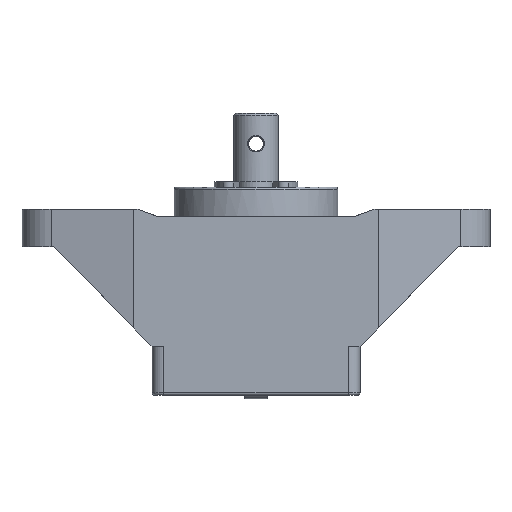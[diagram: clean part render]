
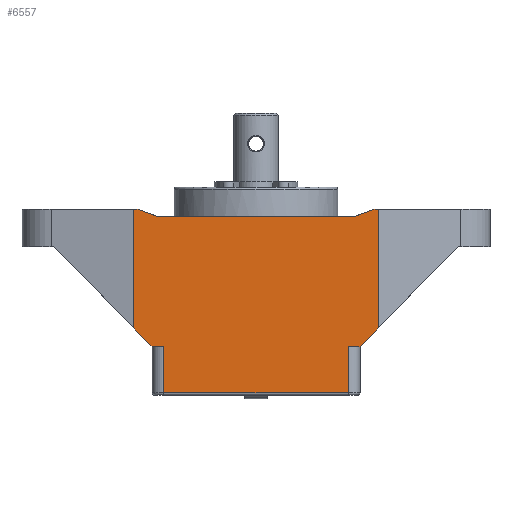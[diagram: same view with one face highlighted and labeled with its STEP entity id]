
A CAD part, front view. The second image highlights one B-rep face of the part: STEP entity #6557.
In plain terms, the highlighted planar face has unit normal (0, -1, 0).
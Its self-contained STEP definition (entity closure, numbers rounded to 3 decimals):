
#97 = VERTEX_POINT ( 'NONE', #6601 ) ;
#141 = VECTOR ( 'NONE', #5560, 1000. ) ;
#224 = DIRECTION ( 'NONE',  ( -0.699, 0., -0.715 ) ) ;
#283 = VERTEX_POINT ( 'NONE', #4496 ) ;
#513 = DIRECTION ( 'NONE',  ( 0., 0., -1. ) ) ;
#827 = CARTESIAN_POINT ( 'NONE',  ( 14., -13., -3. ) ) ;
#1344 = LINE ( 'NONE', #13721, #4312 ) ;
#1372 = ORIENTED_EDGE ( 'NONE', *, *, #2891, .F. ) ;
#1564 = VECTOR ( 'NONE', #17722, 1000. ) ;
#1864 = DIRECTION ( 'NONE',  ( 0., 0., 1. ) ) ;
#2060 = VERTEX_POINT ( 'NONE', #13756 ) ;
#2144 = DIRECTION ( 'NONE',  ( -1., 0., 0. ) ) ;
#2185 = LINE ( 'NONE', #827, #6738 ) ;
#2448 = DIRECTION ( 'NONE',  ( 0., 0., -1. ) ) ;
#2625 = VERTEX_POINT ( 'NONE', #11701 ) ;
#2697 = LINE ( 'NONE', #12177, #11180 ) ;
#2891 = EDGE_CURVE ( 'NONE', #10786, #15778, #15521, .T. ) ;
#2958 = EDGE_CURVE ( 'NONE', #10574, #14121, #16721, .T. ) ;
#3040 = CARTESIAN_POINT ( 'NONE',  ( 14., -13., -21.5 ) ) ;
#3345 = VECTOR ( 'NONE', #4389, 1000. ) ;
#3412 = CARTESIAN_POINT ( 'NONE',  ( -12.4, -13., -19.237 ) ) ;
#3460 = CARTESIAN_POINT ( 'NONE',  ( -14., -13., -21.5 ) ) ;
#3853 = DIRECTION ( 'NONE',  ( 0., 0., -1. ) ) ;
#4312 = VECTOR ( 'NONE', #13449, 1000. ) ;
#4342 = ORIENTED_EDGE ( 'NONE', *, *, #17243, .F. ) ;
#4373 = EDGE_CURVE ( 'NONE', #14194, #283, #16151, .T. ) ;
#4389 = DIRECTION ( 'NONE',  ( 0.94, 0., -0.342 ) ) ;
#4475 = VECTOR ( 'NONE', #513, 1000. ) ;
#4496 = CARTESIAN_POINT ( 'NONE',  ( -16.5, -13., -18.943 ) ) ;
#4656 = DIRECTION ( 'NONE',  ( -1., 0., 0. ) ) ;
#4947 = CARTESIAN_POINT ( 'NONE',  ( -14., -13., -21.5 ) ) ;
#5114 = CARTESIAN_POINT ( 'NONE',  ( -14., -13., -21.5 ) ) ;
#5413 = CARTESIAN_POINT ( 'NONE',  ( 12.4, -13., -27.7 ) ) ;
#5454 = EDGE_CURVE ( 'NONE', #10786, #2060, #14336, .T. ) ;
#5560 = DIRECTION ( 'NONE',  ( 0., 0., 1. ) ) ;
#5849 = VERTEX_POINT ( 'NONE', #7178 ) ;
#5963 = VECTOR ( 'NONE', #9703, 1000. ) ;
#6052 = LINE ( 'NONE', #3412, #4475 ) ;
#6468 = ORIENTED_EDGE ( 'NONE', *, *, #11739, .F. ) ;
#6557 = ADVANCED_FACE ( 'NONE', ( #9735 ), #15291, .T. ) ;
#6601 = CARTESIAN_POINT ( 'NONE',  ( 15.883, -13., -3. ) ) ;
#6738 = VECTOR ( 'NONE', #11840, 1000. ) ;
#6971 = ORIENTED_EDGE ( 'NONE', *, *, #4373, .F. ) ;
#6992 = CARTESIAN_POINT ( 'NONE',  ( -14., -13., -28. ) ) ;
#7088 = VECTOR ( 'NONE', #1864, 1000. ) ;
#7138 = ORIENTED_EDGE ( 'NONE', *, *, #2958, .F. ) ;
#7178 = CARTESIAN_POINT ( 'NONE',  ( 12.4, -13., -21.5 ) ) ;
#8080 = DIRECTION ( 'NONE',  ( 1., 0., 0. ) ) ;
#8112 = ORIENTED_EDGE ( 'NONE', *, *, #15145, .T. ) ;
#8244 = LINE ( 'NONE', #5413, #5963 ) ;
#8314 = CARTESIAN_POINT ( 'NONE',  ( -13.136, -13., -4. ) ) ;
#8336 = EDGE_CURVE ( 'NONE', #14121, #10982, #2697, .T. ) ;
#8450 = ORIENTED_EDGE ( 'NONE', *, *, #15098, .F. ) ;
#8733 = AXIS2_PLACEMENT_3D ( 'NONE', #6992, #12559, #2448 ) ;
#8786 = EDGE_CURVE ( 'NONE', #283, #2625, #16865, .T. ) ;
#8841 = ORIENTED_EDGE ( 'NONE', *, *, #5454, .T. ) ;
#8992 = EDGE_CURVE ( 'NONE', #97, #2060, #2185, .T. ) ;
#9313 = DIRECTION ( 'NONE',  ( -0.699, 0., 0.715 ) ) ;
#9595 = VECTOR ( 'NONE', #4656, 1000. ) ;
#9612 = CARTESIAN_POINT ( 'NONE',  ( 12.4, -13., -19.237 ) ) ;
#9703 = DIRECTION ( 'NONE',  ( 1., 0., 0. ) ) ;
#9735 = FACE_OUTER_BOUND ( 'NONE', #10991, .T. ) ;
#10051 = VECTOR ( 'NONE', #3853, 1000. ) ;
#10182 = VERTEX_POINT ( 'NONE', #16848 ) ;
#10432 = LINE ( 'NONE', #4947, #14656 ) ;
#10494 = CARTESIAN_POINT ( 'NONE',  ( 13.136, -13., -4. ) ) ;
#10574 = VERTEX_POINT ( 'NONE', #12640 ) ;
#10734 = EDGE_CURVE ( 'NONE', #2625, #10574, #13531, .T. ) ;
#10786 = VERTEX_POINT ( 'NONE', #12345 ) ;
#10982 = VERTEX_POINT ( 'NONE', #10494 ) ;
#10991 = EDGE_LOOP ( 'NONE', ( #17805, #8112, #8450, #4342, #1372, #8841, #16720, #13292, #12920, #7138, #17592, #15669, #6971, #6468 ) ) ;
#11180 = VECTOR ( 'NONE', #8080, 1000. ) ;
#11202 = CARTESIAN_POINT ( 'NONE',  ( -12.4, -13., -21.5 ) ) ;
#11701 = CARTESIAN_POINT ( 'NONE',  ( -16.5, -13., -3. ) ) ;
#11739 = EDGE_CURVE ( 'NONE', #13364, #14194, #10432, .T. ) ;
#11840 = DIRECTION ( 'NONE',  ( 1., 0., 0. ) ) ;
#11867 = CARTESIAN_POINT ( 'NONE',  ( 16.5, -13., -8. ) ) ;
#12177 = CARTESIAN_POINT ( 'NONE',  ( -8.9, -13., -4. ) ) ;
#12345 = CARTESIAN_POINT ( 'NONE',  ( 16.5, -13., -18.943 ) ) ;
#12472 = EDGE_CURVE ( 'NONE', #13364, #16072, #6052, .T. ) ;
#12499 = CARTESIAN_POINT ( 'NONE',  ( -16.5, -13., -8. ) ) ;
#12559 = DIRECTION ( 'NONE',  ( 0., -1., 0. ) ) ;
#12640 = CARTESIAN_POINT ( 'NONE',  ( -15.883, -13., -3. ) ) ;
#12920 = ORIENTED_EDGE ( 'NONE', *, *, #8336, .F. ) ;
#13292 = ORIENTED_EDGE ( 'NONE', *, *, #16584, .F. ) ;
#13364 = VERTEX_POINT ( 'NONE', #11202 ) ;
#13449 = DIRECTION ( 'NONE',  ( 0.94, 0., 0.342 ) ) ;
#13531 = LINE ( 'NONE', #16074, #1564 ) ;
#13721 = CARTESIAN_POINT ( 'NONE',  ( 15.883, -13., -3. ) ) ;
#13756 = CARTESIAN_POINT ( 'NONE',  ( 16.5, -13., -3. ) ) ;
#13808 = LINE ( 'NONE', #9612, #10051 ) ;
#13893 = CARTESIAN_POINT ( 'NONE',  ( -15.883, -13., -3. ) ) ;
#14121 = VERTEX_POINT ( 'NONE', #8314 ) ;
#14194 = VERTEX_POINT ( 'NONE', #3460 ) ;
#14326 = LINE ( 'NONE', #17158, #9595 ) ;
#14336 = LINE ( 'NONE', #11867, #7088 ) ;
#14405 = VECTOR ( 'NONE', #224, 1000. ) ;
#14656 = VECTOR ( 'NONE', #2144, 1000. ) ;
#15098 = EDGE_CURVE ( 'NONE', #5849, #10182, #13808, .T. ) ;
#15145 = EDGE_CURVE ( 'NONE', #16072, #10182, #8244, .T. ) ;
#15291 = PLANE ( 'NONE',  #8733 ) ;
#15521 = LINE ( 'NONE', #3040, #14405 ) ;
#15669 = ORIENTED_EDGE ( 'NONE', *, *, #8786, .F. ) ;
#15778 = VERTEX_POINT ( 'NONE', #17620 ) ;
#15794 = VECTOR ( 'NONE', #9313, 1000. ) ;
#16025 = CARTESIAN_POINT ( 'NONE',  ( -12.4, -13., -27.7 ) ) ;
#16072 = VERTEX_POINT ( 'NONE', #16025 ) ;
#16074 = CARTESIAN_POINT ( 'NONE',  ( -14., -13., -3. ) ) ;
#16151 = LINE ( 'NONE', #5114, #15794 ) ;
#16584 = EDGE_CURVE ( 'NONE', #10982, #97, #1344, .T. ) ;
#16720 = ORIENTED_EDGE ( 'NONE', *, *, #8992, .F. ) ;
#16721 = LINE ( 'NONE', #13893, #3345 ) ;
#16848 = CARTESIAN_POINT ( 'NONE',  ( 12.4, -13., -27.7 ) ) ;
#16865 = LINE ( 'NONE', #12499, #141 ) ;
#17158 = CARTESIAN_POINT ( 'NONE',  ( 14., -13., -21.5 ) ) ;
#17243 = EDGE_CURVE ( 'NONE', #15778, #5849, #14326, .T. ) ;
#17592 = ORIENTED_EDGE ( 'NONE', *, *, #10734, .F. ) ;
#17620 = CARTESIAN_POINT ( 'NONE',  ( 14., -13., -21.5 ) ) ;
#17722 = DIRECTION ( 'NONE',  ( 1., 0., 0. ) ) ;
#17805 = ORIENTED_EDGE ( 'NONE', *, *, #12472, .T. ) ;
